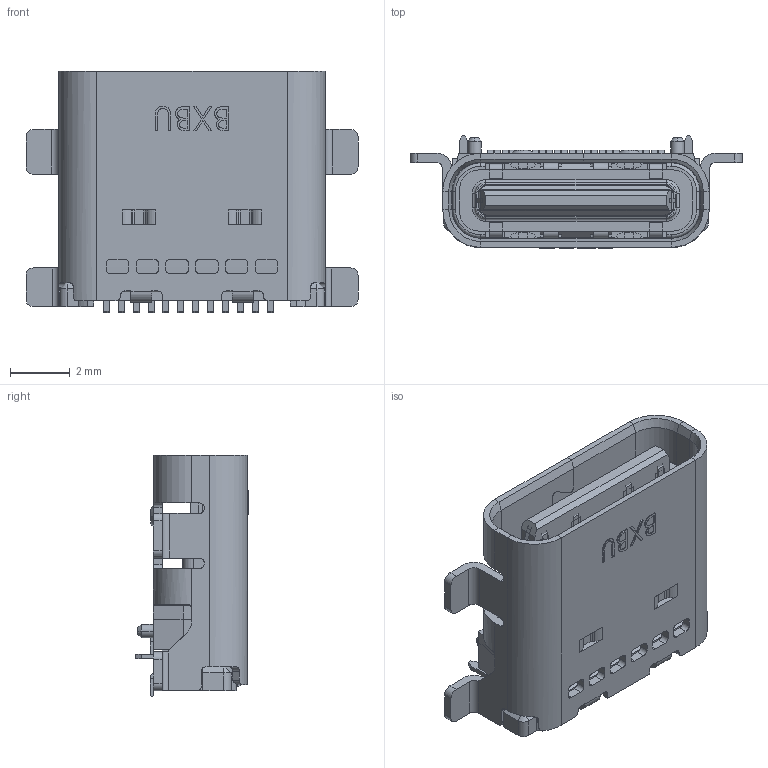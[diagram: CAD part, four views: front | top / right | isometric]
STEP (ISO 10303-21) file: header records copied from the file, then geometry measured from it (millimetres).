
FILE_DESCRIPTION (( 'STEP AP214' ), '1' );
FILE_NAME ('U5299-24PN7.9L.STEP', '2026-07-30T02:00:45', ( '' ), ( '' ), 'SwSTEP 2.0', 'SolidWorks 2024', '' );
FILE_SCHEMA (( 'AUTOMOTIVE_DESIGN' ));
Length unit declared in the file: millimetre
Products named in the file (1): U5299-24PN7.9L
Bounding box: 11.14 x 3.79 x 8.1 mm (x, y, z)
Volume: 147.6 mm3; surface area: 1004.4 mm2
Topology: 50 solids, 50 shells, 2422 faces, 6117 edges, 3802 vertices
Faces by surface type: plane 1763, cylinder 562, bspline 45, cone 34, torus 18
Entity records: 73752 total; most frequent: CARTESIAN_POINT 14654, ORIENTED_EDGE 12234, DIRECTION 11919, EDGE_CURVE 6117, VECTOR 4799, LINE 4799, VERTEX_POINT 3802, AXIS2_PLACEMENT_3D 3560
